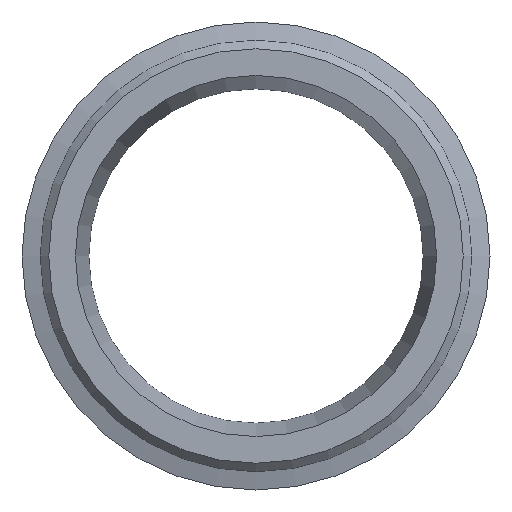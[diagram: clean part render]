
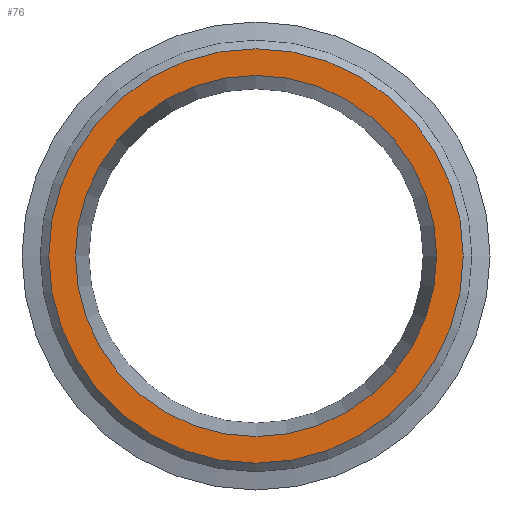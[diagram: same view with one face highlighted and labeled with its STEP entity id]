
A CAD part, left-side view. The second image highlights one B-rep face of the part: STEP entity #76.
In plain terms, the highlighted planar face has unit normal (-1, 0, 0).
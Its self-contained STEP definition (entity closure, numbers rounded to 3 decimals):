
#76=ADVANCED_FACE('',(#91,#92),#93,.T.);
#91=FACE_OUTER_BOUND('',#127,.T.);
#92=FACE_BOUND('',#128,.T.);
#93=PLANE('',#129);
#127=EDGE_LOOP('',(#165));
#128=EDGE_LOOP('',(#166));
#129=AXIS2_PLACEMENT_3D('',#167,#168,#169);
#165=ORIENTED_EDGE('',*,*,#222,.T.);
#166=ORIENTED_EDGE('',*,*,#220,.F.);
#167=CARTESIAN_POINT('',(0.0,13.505,0.0));
#168=DIRECTION('',(-1.0,0.0,0.0));
#169=DIRECTION('',(0.0,0.0,1.0));
#220=EDGE_CURVE('',#232,#232,#233,.T.);
#222=EDGE_CURVE('',#236,#236,#237,.T.);
#232=VERTEX_POINT('',#256);
#233=CIRCLE('',#257,13.505);
#236=VERTEX_POINT('',#260);
#237=CIRCLE('',#261,15.5);
#256=CARTESIAN_POINT('',(0.0,0.0,13.505));
#257=AXIS2_PLACEMENT_3D('',#280,#281,#282);
#260=CARTESIAN_POINT('',(0.0,0.0,15.5));
#261=AXIS2_PLACEMENT_3D('',#286,#287,#288);
#280=CARTESIAN_POINT('',(0.0,0.0,0.0));
#281=DIRECTION('',(-1.0,0.0,0.0));
#282=DIRECTION('',(0.0,0.0,1.0));
#286=CARTESIAN_POINT('',(0.0,0.0,0.0));
#287=DIRECTION('',(-1.0,0.0,0.0));
#288=DIRECTION('',(0.0,0.0,1.0));
